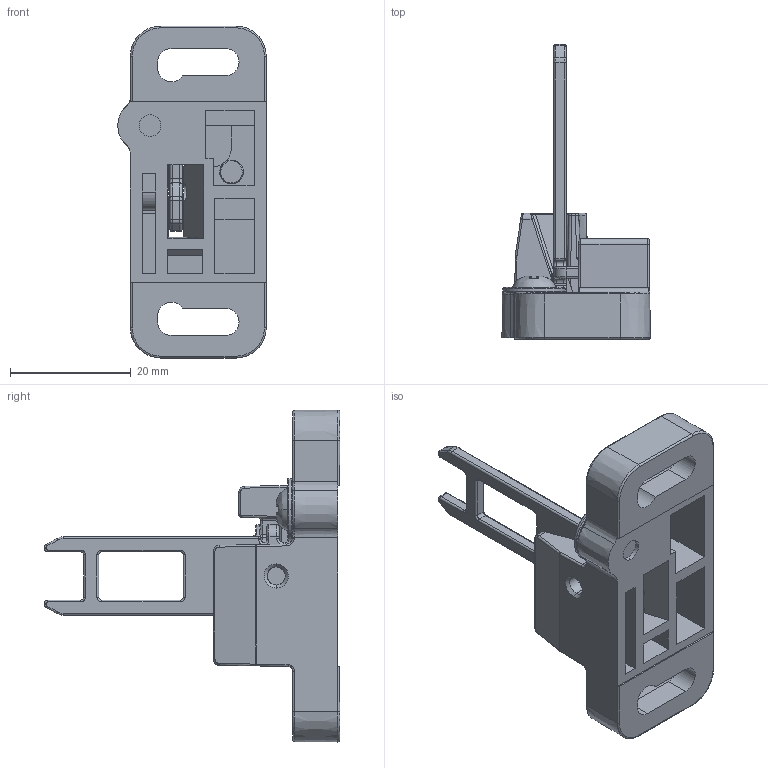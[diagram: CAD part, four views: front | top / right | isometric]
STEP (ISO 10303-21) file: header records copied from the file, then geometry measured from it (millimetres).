
FILE_DESCRIPTION((''),'2;1');
FILE_NAME('K4','2022-09-23T10:59:20',('林章'),(''),'CREO PARAMETRIC BY PTC INC, 2020033','CREO PARAMETRIC BY PTC INC, 2020033','');
FILE_SCHEMA(('CONFIG_CONTROL_DESIGN'));
Length unit declared in the file: millimetre
Products named in the file (1): K4
Bounding box: 24.59 x 48.9 x 54.99 mm (x, y, z)
Volume: 10170.3 mm3; surface area: 8929.8 mm2
Topology: 1 solids, 3 shells, 611 faces, 1438 edges, 841 vertices
Faces by surface type: cylinder 218, plane 163, bspline 138, torus 69, cone 23
Entity records: 25376 total; most frequent: CARTESIAN_POINT 12161, ORIENTED_EDGE 2876, DIRECTION 2603, EDGE_CURVE 1438, AXIS2_PLACEMENT_3D 998, VERTEX_POINT 841, EDGE_LOOP 635, FACE_OUTER_BOUND 611
